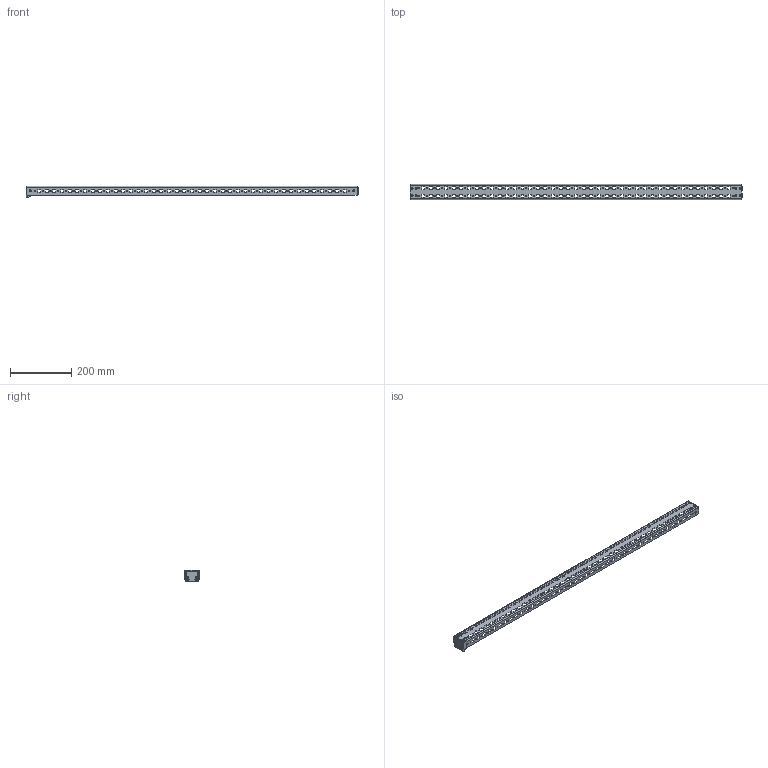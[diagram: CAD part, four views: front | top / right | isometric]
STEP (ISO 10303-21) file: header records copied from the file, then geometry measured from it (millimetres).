
FILE_DESCRIPTION(('STEP AP203'), '1');
FILE_NAME('MG 120.06 L Ðåéêà ìîíòàæíàÿ v2', '2021-05-20T09:15:23', ('UNSPECIFIED'), ('UNSPECIFIED'), 'ASCON STEP Converter 1.3', 'ASCON Math Kernel', '');
FILE_SCHEMA(('CONFIG_CONTROL_DESIGN'));
Length unit declared in the file: millimetre
Products named in the file (3): MG 120.06 L 01.001 Ðåéêà ìîíòàæíàÿ v2; MG 06 L 01.002 Êðîíøòåéí ðåéêè ìîíòàæíîé v2
Assembly tree (3 placements, depth 2):
  (unnamed)
    MG 120.06 L 01.001 Ðåéêà ìîíòàæíàÿ v2
    MG 06 L 01.002 Êðîíøòåéí ðåéêè ìîíòàæíîé v2  x2
Bounding box: 1085.55 x 49.15 x 39 mm (x, y, z)
Volume: 203324.5 mm3; surface area: 227215.2 mm2
Topology: 3 solids, 3 shells, 1638 faces, 4816 edges, 3184 vertices
Faces by surface type: cylinder 892, plane 738, bspline 8
Full cylindrical faces by diameter (mm): 4.2 x192, 6 x4, 6.5 x12
Entity records: 67448 total; most frequent: CARTESIAN_POINT 10098, DIRECTION 9350, ORIENTED_EDGE 8960, EDGE_CURVE 4480, AXIS2_PLACEMENT_3D 3302, VERTEX_POINT 3100, LINE 2746, VECTOR 2746
